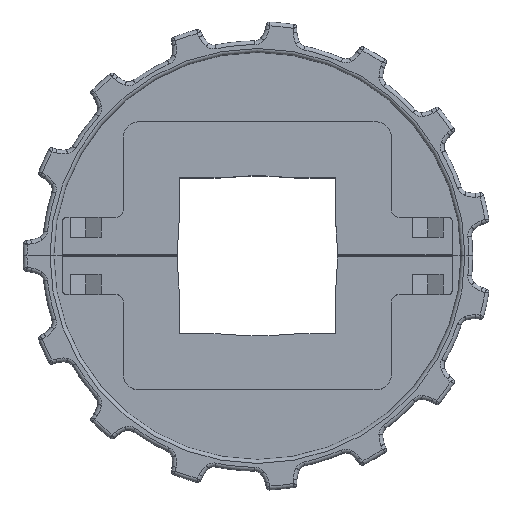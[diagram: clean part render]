
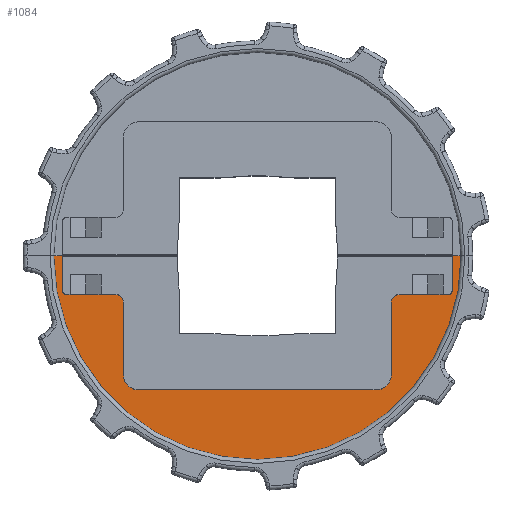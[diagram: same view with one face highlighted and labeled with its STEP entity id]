
A CAD part, top view. The second image highlights one B-rep face of the part: STEP entity #1084.
In plain terms, the highlighted planar face has unit normal (0, 0, 1).
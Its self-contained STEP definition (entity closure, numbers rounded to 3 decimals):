
#1084=ADVANCED_FACE('',(#1842),#1469,.F.);
#1469=PLANE('',#10800);
#1842=FACE_OUTER_BOUND('',#2472,.T.);
#2472=EDGE_LOOP('',(#5085,#5086,#5087,#5088,#5089,#5090,#5091,#5092,#5093,
#5094,#5095,#5096,#5097,#5098,#5099,#5100,#5101,#5102,#5103,#5104,#5105,
#5106,#5107,#5108,#5109,#5110));
#3151=CIRCLE('',#10789,1.);
#3152=CIRCLE('',#10790,1.);
#3153=CIRCLE('',#10791,52.8);
#3154=CIRCLE('',#10792,1.);
#3155=CIRCLE('',#10793,1.);
#3156=CIRCLE('',#10794,1.);
#3157=CIRCLE('',#10795,2.);
#3158=CIRCLE('',#10796,4.);
#3159=CIRCLE('',#10797,4.);
#3160=CIRCLE('',#10798,2.);
#3161=CIRCLE('',#10799,1.);
#5085=ORIENTED_EDGE('',*,*,#8182,.T.);
#5086=ORIENTED_EDGE('',*,*,#8128,.T.);
#5087=ORIENTED_EDGE('',*,*,#8183,.T.);
#5088=ORIENTED_EDGE('',*,*,#8184,.T.);
#5089=ORIENTED_EDGE('',*,*,#8185,.T.);
#5090=ORIENTED_EDGE('',*,*,#8186,.T.);
#5091=ORIENTED_EDGE('',*,*,#8187,.F.);
#5092=ORIENTED_EDGE('',*,*,#8188,.F.);
#5093=ORIENTED_EDGE('',*,*,#8189,.F.);
#5094=ORIENTED_EDGE('',*,*,#8190,.T.);
#5095=ORIENTED_EDGE('',*,*,#8191,.T.);
#5096=ORIENTED_EDGE('',*,*,#8192,.T.);
#5097=ORIENTED_EDGE('',*,*,#8193,.T.);
#5098=ORIENTED_EDGE('',*,*,#8143,.T.);
#5099=ORIENTED_EDGE('',*,*,#8194,.T.);
#5100=ORIENTED_EDGE('',*,*,#8195,.T.);
#5101=ORIENTED_EDGE('',*,*,#8137,.T.);
#5102=ORIENTED_EDGE('',*,*,#8196,.T.);
#5103=ORIENTED_EDGE('',*,*,#8197,.T.);
#5104=ORIENTED_EDGE('',*,*,#8198,.T.);
#5105=ORIENTED_EDGE('',*,*,#8199,.T.);
#5106=ORIENTED_EDGE('',*,*,#8200,.T.);
#5107=ORIENTED_EDGE('',*,*,#8201,.T.);
#5108=ORIENTED_EDGE('',*,*,#8202,.T.);
#5109=ORIENTED_EDGE('',*,*,#8203,.T.);
#5110=ORIENTED_EDGE('',*,*,#8204,.T.);
#6944=VERTEX_POINT('',#18144);
#6945=VERTEX_POINT('',#18146);
#6953=VERTEX_POINT('',#18163);
#6954=VERTEX_POINT('',#18165);
#6959=VERTEX_POINT('',#18177);
#6960=VERTEX_POINT('',#18178);
#6993=VERTEX_POINT('',#18252);
#6994=VERTEX_POINT('',#18254);
#6995=VERTEX_POINT('',#18256);
#6996=VERTEX_POINT('',#18258);
#6997=VERTEX_POINT('',#18260);
#6998=VERTEX_POINT('',#18262);
#6999=VERTEX_POINT('',#18264);
#7000=VERTEX_POINT('',#18266);
#7001=VERTEX_POINT('',#18268);
#7002=VERTEX_POINT('',#18270);
#7003=VERTEX_POINT('',#18272);
#7004=VERTEX_POINT('',#18275);
#7005=VERTEX_POINT('',#18278);
#7006=VERTEX_POINT('',#18280);
#7007=VERTEX_POINT('',#18282);
#7008=VERTEX_POINT('',#18284);
#7009=VERTEX_POINT('',#18286);
#7010=VERTEX_POINT('',#18288);
#7011=VERTEX_POINT('',#18290);
#7012=VERTEX_POINT('',#18292);
#8128=EDGE_CURVE('',#6945,#6944,#9190,.T.);
#8137=EDGE_CURVE('',#6954,#6953,#9197,.T.);
#8143=EDGE_CURVE('',#6959,#6960,#9203,.T.);
#8182=EDGE_CURVE('',#6993,#6945,#9234,.T.);
#8183=EDGE_CURVE('',#6944,#6994,#9235,.T.);
#8184=EDGE_CURVE('',#6994,#6995,#3151,.T.);
#8185=EDGE_CURVE('',#6995,#6996,#9236,.T.);
#8186=EDGE_CURVE('',#6996,#6997,#3152,.T.);
#8187=EDGE_CURVE('',#6998,#6997,#9237,.T.);
#8188=EDGE_CURVE('',#6999,#6998,#3153,.T.);
#8189=EDGE_CURVE('',#7000,#6999,#9238,.T.);
#8190=EDGE_CURVE('',#7000,#7001,#3154,.T.);
#8191=EDGE_CURVE('',#7001,#7002,#9239,.T.);
#8192=EDGE_CURVE('',#7002,#7003,#3155,.T.);
#8193=EDGE_CURVE('',#7003,#6959,#9240,.T.);
#8194=EDGE_CURVE('',#6960,#7004,#9241,.T.);
#8195=EDGE_CURVE('',#7004,#6954,#3156,.T.);
#8196=EDGE_CURVE('',#6953,#7005,#3157,.T.);
#8197=EDGE_CURVE('',#7005,#7006,#9242,.T.);
#8198=EDGE_CURVE('',#7006,#7007,#3158,.T.);
#8199=EDGE_CURVE('',#7007,#7008,#9243,.T.);
#8200=EDGE_CURVE('',#7008,#7009,#3159,.T.);
#8201=EDGE_CURVE('',#7009,#7010,#9244,.T.);
#8202=EDGE_CURVE('',#7010,#7011,#3160,.T.);
#8203=EDGE_CURVE('',#7011,#7012,#9245,.T.);
#8204=EDGE_CURVE('',#7012,#6993,#3161,.T.);
#9190=LINE('',#18145,#9840);
#9197=LINE('',#18164,#9847);
#9203=LINE('',#18176,#9853);
#9234=LINE('',#18251,#9884);
#9235=LINE('',#18253,#9885);
#9236=LINE('',#18257,#9886);
#9237=LINE('',#18261,#9887);
#9238=LINE('',#18265,#9888);
#9239=LINE('',#18269,#9889);
#9240=LINE('',#18273,#9890);
#9241=LINE('',#18274,#9891);
#9242=LINE('',#18279,#9892);
#9243=LINE('',#18283,#9893);
#9244=LINE('',#18287,#9894);
#9245=LINE('',#18291,#9895);
#9840=VECTOR('',#13065,1.);
#9847=VECTOR('',#13078,1.);
#9853=VECTOR('',#13086,1.);
#9884=VECTOR('',#13137,1.);
#9885=VECTOR('',#13138,1.);
#9886=VECTOR('',#13141,1.);
#9887=VECTOR('',#13144,1.);
#9888=VECTOR('',#13147,1.);
#9889=VECTOR('',#13150,1.);
#9890=VECTOR('',#13153,1.);
#9891=VECTOR('',#13154,1.);
#9892=VECTOR('',#13159,1.);
#9893=VECTOR('',#13162,1.);
#9894=VECTOR('',#13165,1.);
#9895=VECTOR('',#13168,1.);
#10789=AXIS2_PLACEMENT_3D('',#18255,#13139,#13140);
#10790=AXIS2_PLACEMENT_3D('',#18259,#13142,#13143);
#10791=AXIS2_PLACEMENT_3D('',#18263,#13145,#13146);
#10792=AXIS2_PLACEMENT_3D('',#18267,#13148,#13149);
#10793=AXIS2_PLACEMENT_3D('',#18271,#13151,#13152);
#10794=AXIS2_PLACEMENT_3D('',#18276,#13155,#13156);
#10795=AXIS2_PLACEMENT_3D('',#18277,#13157,#13158);
#10796=AXIS2_PLACEMENT_3D('',#18281,#13160,#13161);
#10797=AXIS2_PLACEMENT_3D('',#18285,#13163,#13164);
#10798=AXIS2_PLACEMENT_3D('',#18289,#13166,#13167);
#10799=AXIS2_PLACEMENT_3D('',#18293,#13169,#13170);
#10800=AXIS2_PLACEMENT_3D('',#18294,#13171,#13172);
#13065=DIRECTION('',(1.,0.,0.));
#13078=DIRECTION('',(-1.,0.,0.));
#13086=DIRECTION('',(1.,0.,0.));
#13137=DIRECTION('',(0.,1.,0.));
#13138=DIRECTION('',(-1.,0.,0.));
#13139=DIRECTION('',(0.,0.,-1.));
#13140=DIRECTION('',(-1.,0.,0.));
#13141=DIRECTION('',(-0.997,0.083,0.));
#13142=DIRECTION('',(0.,0.,1.));
#13143=DIRECTION('',(-1.,0.,0.));
#13144=DIRECTION('',(1.,0.,0.));
#13145=DIRECTION('',(0.,0.,-1.));
#13146=DIRECTION('',(1.,0.,0.));
#13147=DIRECTION('',(1.,0.,0.));
#13148=DIRECTION('',(0.,0.,1.));
#13149=DIRECTION('',(-1.,0.,0.));
#13150=DIRECTION('',(-0.997,-0.083,0.));
#13151=DIRECTION('',(0.,0.,-1.));
#13152=DIRECTION('',(-1.,0.,0.));
#13153=DIRECTION('',(-1.,0.,0.));
#13154=DIRECTION('',(0.,-1.,0.));
#13155=DIRECTION('',(0.,0.,-1.));
#13156=DIRECTION('',(1.,0.,0.));
#13157=DIRECTION('',(0.,0.,1.));
#13158=DIRECTION('',(1.,0.,0.));
#13159=DIRECTION('',(0.,-1.,0.));
#13160=DIRECTION('',(0.,0.,-1.));
#13161=DIRECTION('',(1.,0.,0.));
#13162=DIRECTION('',(-1.,0.,0.));
#13163=DIRECTION('',(0.,0.,-1.));
#13164=DIRECTION('',(1.,0.,0.));
#13165=DIRECTION('',(0.,1.,0.));
#13166=DIRECTION('',(0.,0.,1.));
#13167=DIRECTION('',(1.,0.,0.));
#13168=DIRECTION('',(-1.,0.,0.));
#13169=DIRECTION('',(0.,0.,-1.));
#13170=DIRECTION('',(1.,0.,0.));
#13171=DIRECTION('',(0.,0.,-1.));
#13172=DIRECTION('',(-1.,0.,0.));
#18144=CARTESIAN_POINT('',(-59.45,-250.236,-13.561));
#18145=CARTESIAN_POINT('',(-71.704,-250.242,-13.561));
#18146=CARTESIAN_POINT('',(-78.2,-250.245,-13.561));
#18163=CARTESIAN_POINT('',(9.05,-259.986,-13.561));
#18164=CARTESIAN_POINT('',(-71.7,-259.986,-13.561));
#18165=CARTESIAN_POINT('',(21.8,-259.986,-13.561));
#18176=CARTESIAN_POINT('',(-71.695,-250.2,-13.561));
#18177=CARTESIAN_POINT('',(4.051,-250.236,-13.561));
#18178=CARTESIAN_POINT('',(22.8,-250.245,-13.561));
#18251=CARTESIAN_POINT('',(-78.2,-258.986,-13.561));
#18252=CARTESIAN_POINT('',(-78.2,-258.986,-13.561));
#18253=CARTESIAN_POINT('',(-48.45,-250.236,-13.561));
#18254=CARTESIAN_POINT('',(-75.408,-250.236,-13.561));
#18255=CARTESIAN_POINT('',(-75.408,-249.236,-13.561));
#18256=CARTESIAN_POINT('',(-75.491,-250.232,-13.561));
#18257=CARTESIAN_POINT('',(-71.001,-250.606,-13.561));
#18258=CARTESIAN_POINT('',(-78.408,-249.989,-13.561));
#18259=CARTESIAN_POINT('',(-78.491,-250.986,-13.561));
#18260=CARTESIAN_POINT('',(-78.491,-249.986,-13.561));
#18261=CARTESIAN_POINT('',(-88.45,-249.986,-13.561));
#18262=CARTESIAN_POINT('',(-80.5,-249.986,-13.561));
#18263=CARTESIAN_POINT('',(-27.7,-249.986,-13.561));
#18264=CARTESIAN_POINT('',(25.1,-249.986,-13.561));
#18265=CARTESIAN_POINT('',(21.142,-249.986,-13.561));
#18266=CARTESIAN_POINT('',(21.142,-249.986,-13.561));
#18267=CARTESIAN_POINT('',(21.142,-250.986,-13.561));
#18268=CARTESIAN_POINT('',(21.059,-249.989,-13.561));
#18269=CARTESIAN_POINT('',(-71.804,-257.728,-13.561));
#18270=CARTESIAN_POINT('',(18.142,-250.232,-13.561));
#18271=CARTESIAN_POINT('',(18.059,-249.236,-13.561));
#18272=CARTESIAN_POINT('',(18.059,-250.236,-13.561));
#18273=CARTESIAN_POINT('',(17.3,-250.236,-13.561));
#18274=CARTESIAN_POINT('',(22.8,-258.986,-13.561));
#18275=CARTESIAN_POINT('',(22.8,-258.986,-13.561));
#18276=CARTESIAN_POINT('',(21.8,-258.986,-13.561));
#18277=CARTESIAN_POINT('',(9.05,-261.986,-13.561));
#18278=CARTESIAN_POINT('',(7.05,-261.986,-13.561));
#18279=CARTESIAN_POINT('',(7.05,-258.986,-13.561));
#18280=CARTESIAN_POINT('',(7.05,-280.736,-13.561));
#18281=CARTESIAN_POINT('',(3.05,-280.736,-13.561));
#18282=CARTESIAN_POINT('',(3.05,-284.736,-13.561));
#18283=CARTESIAN_POINT('',(-71.7,-284.736,-13.561));
#18284=CARTESIAN_POINT('',(-58.45,-284.736,-13.561));
#18285=CARTESIAN_POINT('',(-58.45,-280.736,-13.561));
#18286=CARTESIAN_POINT('',(-62.45,-280.736,-13.561));
#18287=CARTESIAN_POINT('',(-62.45,-258.986,-13.561));
#18288=CARTESIAN_POINT('',(-62.45,-261.986,-13.561));
#18289=CARTESIAN_POINT('',(-64.45,-261.986,-13.561));
#18290=CARTESIAN_POINT('',(-64.45,-259.986,-13.561));
#18291=CARTESIAN_POINT('',(-71.7,-259.986,-13.561));
#18292=CARTESIAN_POINT('',(-77.2,-259.986,-13.561));
#18293=CARTESIAN_POINT('',(-77.2,-258.986,-13.561));
#18294=CARTESIAN_POINT('',(-71.7,-258.986,-13.561));
